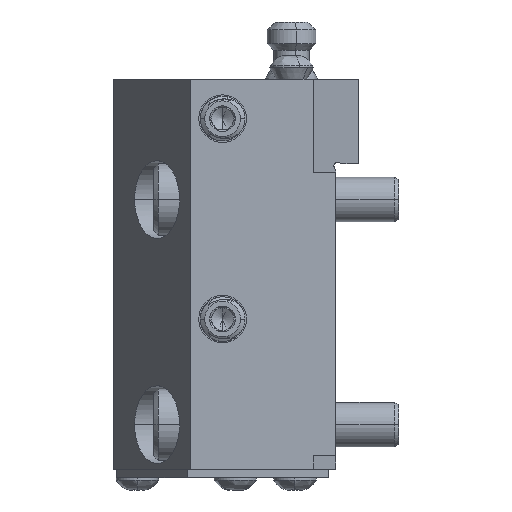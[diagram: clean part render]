
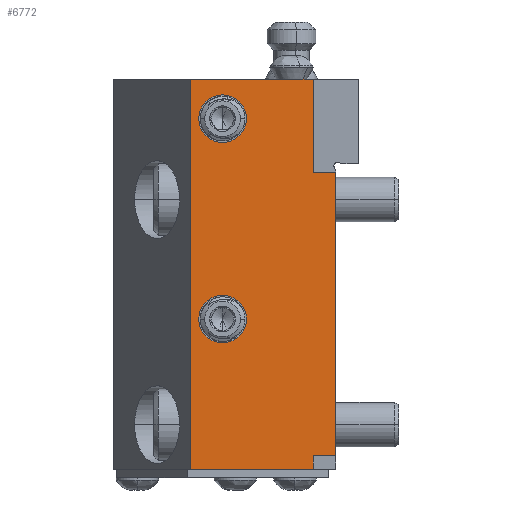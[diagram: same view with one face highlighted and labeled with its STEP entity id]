
A CAD part, left-side view. The second image highlights one B-rep face of the part: STEP entity #6772.
In plain terms, the highlighted planar face has unit normal (-1, 0, 0).
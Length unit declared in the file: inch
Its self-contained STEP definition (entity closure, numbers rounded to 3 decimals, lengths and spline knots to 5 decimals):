
#485 = DIRECTION ( 'NONE',  ( 1., 0., 0. ) ) ;
#805 = CARTESIAN_POINT ( 'NONE',  ( -1.77165, -0.8, 3.45 ) ) ;
#821 = CARTESIAN_POINT ( 'NONE',  ( -1.77165, -1.2, 3.45 ) ) ;
#864 = VECTOR ( 'NONE', #11421, 39.37008 ) ;
#1228 = CARTESIAN_POINT ( 'NONE',  ( -1.77165, -0.8, 3.45 ) ) ;
#1240 = DIRECTION ( 'NONE',  ( 0., 0., 1. ) ) ;
#1639 = VERTEX_POINT ( 'NONE', #9602 ) ;
#1729 = VERTEX_POINT ( 'NONE', #1228 ) ;
#1850 = VECTOR ( 'NONE', #12235, 39.37008 ) ;
#1857 = DIRECTION ( 'NONE',  ( 0., 0., 1. ) ) ;
#2236 = VECTOR ( 'NONE', #2260, 39.37008 ) ;
#2260 = DIRECTION ( 'NONE',  ( 0., 0., -1. ) ) ;
#2272 = VECTOR ( 'NONE', #17138, 39.37008 ) ;
#2380 = CIRCLE ( 'NONE', #12821, 0.2105 ) ;
#2406 = FACE_BOUND ( 'NONE', #10321, .T. ) ;
#2810 = CARTESIAN_POINT ( 'NONE',  ( -1.77165, 0., 3.3105 ) ) ;
#2831 = VECTOR ( 'NONE', #3222, 39.37008 ) ;
#2946 = EDGE_CURVE ( 'NONE', #17102, #14096, #17919, .T. ) ;
#2977 = EDGE_CURVE ( 'NONE', #14992, #9484, #9022, .T. ) ;
#3222 = DIRECTION ( 'NONE',  ( 0., 0., -1. ) ) ;
#3476 = VERTEX_POINT ( 'NONE', #11186 ) ;
#3636 = EDGE_CURVE ( 'NONE', #5323, #1639, #2380, .T. ) ;
#3661 = EDGE_CURVE ( 'NONE', #14992, #3476, #11614, .T. ) ;
#4023 = DIRECTION ( 'NONE',  ( 0., -1., 0. ) ) ;
#4102 = CARTESIAN_POINT ( 'NONE',  ( -1.77165, -1.2, 0.12 ) ) ;
#4316 = CARTESIAN_POINT ( 'NONE',  ( -1.77165, -1.2, 0. ) ) ;
#4494 = EDGE_CURVE ( 'NONE', #14096, #9484, #5666, .T. ) ;
#4517 = EDGE_CURVE ( 'NONE', #1639, #5323, #12960, .T. ) ;
#4601 = DIRECTION ( 'NONE',  ( 0., 0., 1. ) ) ;
#4743 = ORIENTED_EDGE ( 'NONE', *, *, #2946, .T. ) ;
#5205 = EDGE_CURVE ( 'NONE', #1729, #17102, #9293, .T. ) ;
#5323 = VERTEX_POINT ( 'NONE', #9660 ) ;
#5569 = DIRECTION ( 'NONE',  ( 1., 0., 0. ) ) ;
#5666 = LINE ( 'NONE', #4316, #14180 ) ;
#6363 = LINE ( 'NONE', #13678, #1850 ) ;
#6758 = VECTOR ( 'NONE', #12511, 39.37008 ) ;
#6772 = ADVANCED_FACE ( 'NONE', ( #8188, #18432, #2406 ), #11455, .T. ) ;
#6807 = AXIS2_PLACEMENT_3D ( 'NONE', #9148, #485, #4601 ) ;
#6813 = EDGE_CURVE ( 'NONE', #13741, #8594, #14978, .T. ) ;
#7026 = ORIENTED_EDGE ( 'NONE', *, *, #3661, .T. ) ;
#7034 = ORIENTED_EDGE ( 'NONE', *, *, #16808, .T. ) ;
#7077 = CARTESIAN_POINT ( 'NONE',  ( -1.77165, 0., 1.32835 ) ) ;
#7106 = DIRECTION ( 'NONE',  ( -1., 0., 0. ) ) ;
#7557 = CARTESIAN_POINT ( 'NONE',  ( -1.77165, -0.8, 0.12 ) ) ;
#7649 = VERTEX_POINT ( 'NONE', #9370 ) ;
#7657 = ORIENTED_EDGE ( 'NONE', *, *, #4517, .T. ) ;
#7929 = CARTESIAN_POINT ( 'NONE',  ( -1.77165, -0.8, 0.12 ) ) ;
#8143 = ORIENTED_EDGE ( 'NONE', *, *, #9792, .T. ) ;
#8188 = FACE_OUTER_BOUND ( 'NONE', #13725, .T. ) ;
#8583 = CARTESIAN_POINT ( 'NONE',  ( -1.77165, 0.28344, 3.45 ) ) ;
#8594 = VERTEX_POINT ( 'NONE', #2810 ) ;
#8663 = EDGE_CURVE ( 'NONE', #8594, #13741, #12422, .T. ) ;
#9022 = LINE ( 'NONE', #7557, #2236 ) ;
#9148 = CARTESIAN_POINT ( 'NONE',  ( -1.77165, 0., 1.32835 ) ) ;
#9293 = LINE ( 'NONE', #821, #11134 ) ;
#9370 = CARTESIAN_POINT ( 'NONE',  ( -1.77165, -0.8, 2.625 ) ) ;
#9457 = ORIENTED_EDGE ( 'NONE', *, *, #8663, .T. ) ;
#9484 = VERTEX_POINT ( 'NONE', #10386 ) ;
#9602 = CARTESIAN_POINT ( 'NONE',  ( -1.77165, 0., 1.53885 ) ) ;
#9641 = CARTESIAN_POINT ( 'NONE',  ( -1.77165, -1.2, 3.45 ) ) ;
#9660 = CARTESIAN_POINT ( 'NONE',  ( -1.77165, 0., 1.11785 ) ) ;
#9728 = DIRECTION ( 'NONE',  ( 0., -1., 0. ) ) ;
#9784 = DIRECTION ( 'NONE',  ( 1., 0., 0. ) ) ;
#9792 = EDGE_CURVE ( 'NONE', #11791, #7649, #17345, .T. ) ;
#10321 = EDGE_LOOP ( 'NONE', ( #7657, #17771 ) ) ;
#10386 = CARTESIAN_POINT ( 'NONE',  ( -1.77165, -0.8, 0. ) ) ;
#10746 = ORIENTED_EDGE ( 'NONE', *, *, #4494, .T. ) ;
#10774 = CARTESIAN_POINT ( 'NONE',  ( -1.77165, 0., 2.8895 ) ) ;
#11134 = VECTOR ( 'NONE', #13599, 39.37008 ) ;
#11186 = CARTESIAN_POINT ( 'NONE',  ( -1.77165, -1., 0.12 ) ) ;
#11421 = DIRECTION ( 'NONE',  ( 0., -1., 0. ) ) ;
#11455 = PLANE ( 'NONE',  #12217 ) ;
#11614 = LINE ( 'NONE', #4102, #864 ) ;
#11619 = AXIS2_PLACEMENT_3D ( 'NONE', #18710, #5569, #14131 ) ;
#11791 = VERTEX_POINT ( 'NONE', #16743 ) ;
#12108 = ORIENTED_EDGE ( 'NONE', *, *, #15537, .T. ) ;
#12181 = CARTESIAN_POINT ( 'NONE',  ( -1.77165, 0.28344, 0. ) ) ;
#12217 = AXIS2_PLACEMENT_3D ( 'NONE', #9641, #7106, #9728 ) ;
#12235 = DIRECTION ( 'NONE',  ( 0., 0., 1. ) ) ;
#12422 = CIRCLE ( 'NONE', #17312, 0.2105 ) ;
#12511 = DIRECTION ( 'NONE',  ( 0., 0., 1. ) ) ;
#12773 = ORIENTED_EDGE ( 'NONE', *, *, #5205, .T. ) ;
#12821 = AXIS2_PLACEMENT_3D ( 'NONE', #7077, #9784, #1240 ) ;
#12960 = CIRCLE ( 'NONE', #6807, 0.2105 ) ;
#13599 = DIRECTION ( 'NONE',  ( 0., 1., 0. ) ) ;
#13678 = CARTESIAN_POINT ( 'NONE',  ( -1.77165, -1., 0. ) ) ;
#13725 = EDGE_LOOP ( 'NONE', ( #12773, #4743, #10746, #16645, #7026, #7034, #8143, #12108 ) ) ;
#13741 = VERTEX_POINT ( 'NONE', #10774 ) ;
#13956 = LINE ( 'NONE', #805, #6758 ) ;
#14096 = VERTEX_POINT ( 'NONE', #12181 ) ;
#14131 = DIRECTION ( 'NONE',  ( 0., 0., 1. ) ) ;
#14180 = VECTOR ( 'NONE', #4023, 39.37008 ) ;
#14470 = CARTESIAN_POINT ( 'NONE',  ( -1.77165, -0.8, 2.625 ) ) ;
#14860 = CARTESIAN_POINT ( 'NONE',  ( -1.77165, 0.28344, 3.45 ) ) ;
#14978 = CIRCLE ( 'NONE', #11619, 0.2105 ) ;
#14992 = VERTEX_POINT ( 'NONE', #7929 ) ;
#15115 = DIRECTION ( 'NONE',  ( 1., 0., 0. ) ) ;
#15537 = EDGE_CURVE ( 'NONE', #7649, #1729, #13956, .T. ) ;
#15613 = EDGE_LOOP ( 'NONE', ( #9457, #18100 ) ) ;
#16645 = ORIENTED_EDGE ( 'NONE', *, *, #2977, .F. ) ;
#16743 = CARTESIAN_POINT ( 'NONE',  ( -1.77165, -1., 2.625 ) ) ;
#16808 = EDGE_CURVE ( 'NONE', #3476, #11791, #6363, .T. ) ;
#17102 = VERTEX_POINT ( 'NONE', #8583 ) ;
#17138 = DIRECTION ( 'NONE',  ( 0., 1., 0. ) ) ;
#17312 = AXIS2_PLACEMENT_3D ( 'NONE', #18061, #15115, #1857 ) ;
#17345 = LINE ( 'NONE', #14470, #2272 ) ;
#17771 = ORIENTED_EDGE ( 'NONE', *, *, #3636, .T. ) ;
#17919 = LINE ( 'NONE', #14860, #2831 ) ;
#18061 = CARTESIAN_POINT ( 'NONE',  ( -1.77165, 0., 3.1 ) ) ;
#18100 = ORIENTED_EDGE ( 'NONE', *, *, #6813, .T. ) ;
#18432 = FACE_BOUND ( 'NONE', #15613, .T. ) ;
#18710 = CARTESIAN_POINT ( 'NONE',  ( -1.77165, 0., 3.1 ) ) ;
